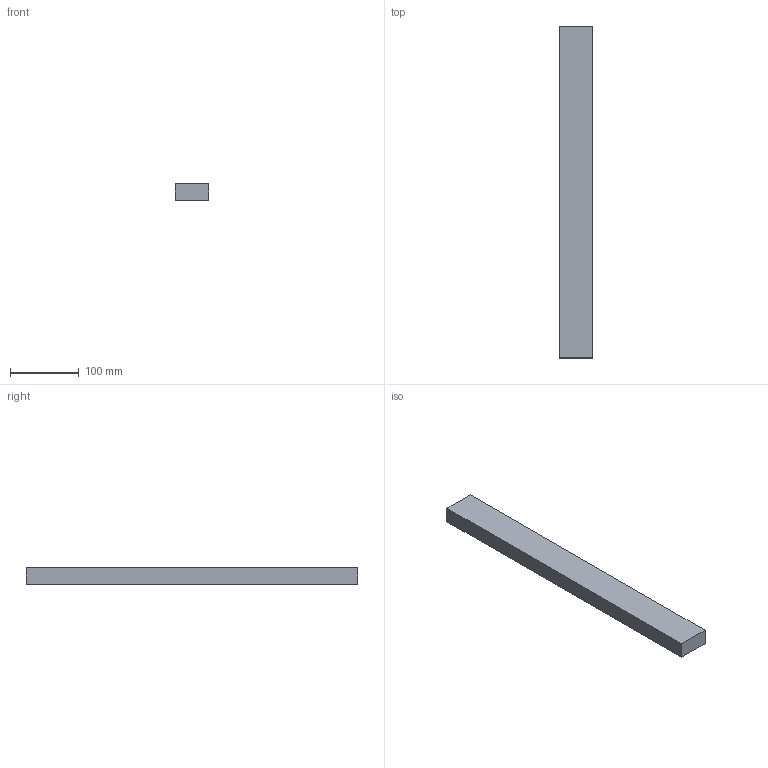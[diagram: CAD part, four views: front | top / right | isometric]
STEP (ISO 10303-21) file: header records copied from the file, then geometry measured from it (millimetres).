
FILE_DESCRIPTION (( 'STEP AP203' ), '1' );
FILE_NAME ('Tasseau_482_Deflecteur.STEP', '2026-06-24T07:29:51', ( '' ), ( '' ), 'SwSTEP 2.0', 'SolidWorks 2024', '' );
FILE_SCHEMA (( 'CONFIG_CONTROL_DESIGN' ));
Length unit declared in the file: millimetre
Products named in the file (1): Tasseau_482_Deflecteur
Bounding box: 48 x 482 x 24 mm (x, y, z)
Volume: 555264 mm3; surface area: 71712 mm2
Topology: 1 solids, 1 shells, 6 faces, 12 edges, 8 vertices
Faces by surface type: plane 6
Entity records: 231 total; most frequent: CARTESIAN_POINT 27, DIRECTION 26, ORIENTED_EDGE 24, EDGE_CURVE 12, LINE 12, VECTOR 12, PERSON_AND_ORGANIZATION 8, VERTEX_POINT 8
